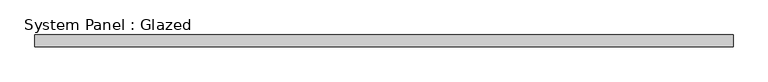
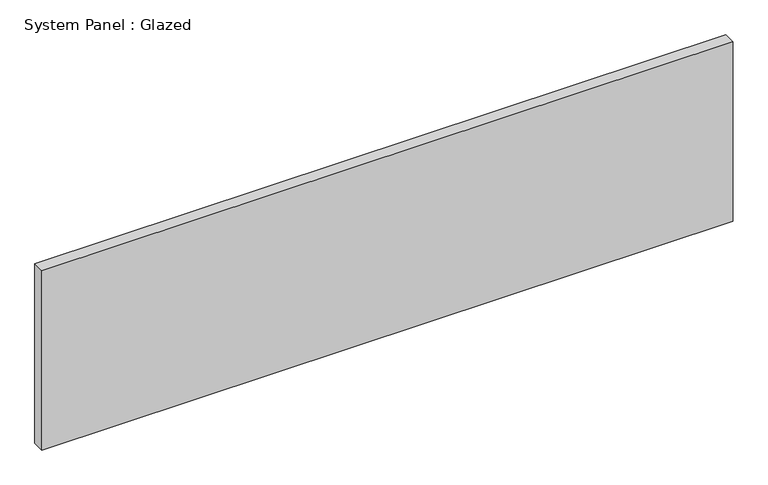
"""IFC4 building model written with IfcOpenShell, lengths in millimetres: plate geometry, System Panel : Glazed."""

from ifc_helpers import new_model, si_unit, origin, origin_with_axes, place, context, project, spatial, polyline, outline, extrude, source, transform, mapped, element, save


def system_panel_glazed_b87072f2(model_context):
    return source(origin(), model_context, "Body", "SweptSolid", [
        extrude(outline(polyline([(725.0, 24.5), (-725.0, 24.5), (-725.0, 49.5), (725.0, 49.5), (725.0, 24.5)])), origin_with_axes(), (0.0, 0.0, 1.0), 397.846895),
    ])


if __name__ == "__main__":
    model = new_model("IFC4")
    model_context = context("Model", 3, world=origin())
    ifc_project = project(units=[si_unit("LENGTHUNIT", "METRE", prefix="MILLI")], contexts=[model_context])
    site = spatial("IfcSite", under=ifc_project)
    building = spatial("IfcBuilding", under=site)
    placement = place(None, origin())
    system_panel_glazed_shape = system_panel_glazed_b87072f2(model_context)
    element("IfcPlate", 1, ObjectType="System Panel : Glazed", at=placement, inside=building, context=model_context, shape_type="MappedRepresentation", body=[
        mapped(system_panel_glazed_shape, transform((0.0, 0.0, 0.0), x_axis=(1.0, 0.0, 0.0), y_axis=(0.0, 1.0, 0.0), z_axis=(0.0, 0.0, 1.0))),
    ])
    save(model, "model.ifc")
